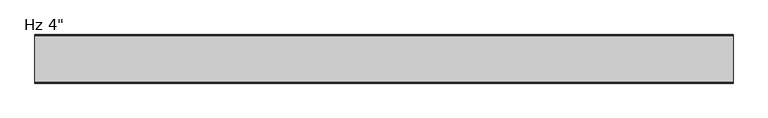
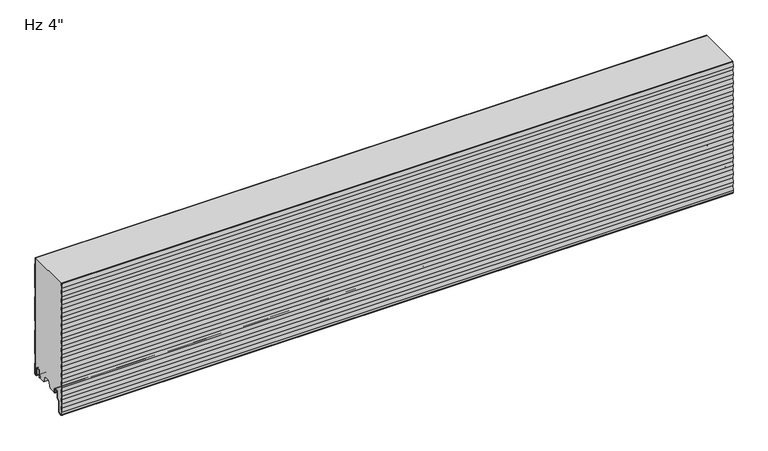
"""IFC4 building model written with IfcOpenShell, lengths in millimetres: plate geometry."""

from ifc_helpers import new_model, si_unit, point, frame, frame_2d, origin, place, context, project, spatial, polyline, circle_curve, trimmed, segment, composite_curve, outline, extrude, source, transform, mapped, element, save
from ifc_brep_helpers import plane_surface, cylinder_surface, revolved_surface, advanced_brep


def plate_c4843a94(model_context):
    return source(origin(), model_context, "Body", "SolidModel", [
        extrude(outline(composite_curve([segment(trimmed(circle_curve(frame_2d((-2.3985037, -0.4487243)), 2.3999705), [point((-3.12e-05, -0.3639402))], [point((-2.3985037, -2.8486949))], False, "CARTESIAN"), True, "CONTINUOUS"), segment(polyline([(-2.3985037, -2.8486949), (-3.9516205, -2.8486949)]), True, "CONTINUOUS"), segment(trimmed(circle_curve(frame_2d((-3.9516205, 0.3613604)), 3.2100553), [point((-3.9516205, -2.8486949))], [point((-7.1616758, 0.3613604))], False, "CARTESIAN"), True, "CONTINUOUS"), segment(polyline([(-7.1616758, 0.3613604), (-7.1616758, 13.8905885)]), True, "CONTINUOUS"), segment(trimmed(circle_curve(frame_2d((-9.8816619, 13.8905885)), 2.7199861), [point((-7.1616758, 13.8905885))], [point((-9.8816619, 16.6105746))], True, "CARTESIAN"), True, "CONTINUOUS"), segment(polyline([(-9.8816619, 16.6105746), (-13.5282598, 16.6105746)]), True, "CONTINUOUS"), segment(trimmed(circle_curve(frame_2d((-13.5282598, 13.8905782)), 2.7199964), [point((-13.5282598, 16.6105746))], [point((-16.2482561, 13.8905782))], True, "CARTESIAN"), True, "CONTINUOUS"), segment(polyline([(-16.2482561, 13.8905782), (-16.2482561, 1.189897)]), True, "CONTINUOUS"), segment(trimmed(circle_curve(frame_2d((-17.7722572, 1.189897)), 1.524001), [point((-16.2482561, 1.189897))], [point((-19.2731052, 1.454537))], False, "CARTESIAN"), True, "CONTINUOUS"), segment(polyline([(-19.2731052, 1.454537), (-18.1704393, 7.7080661), (-17.2482561, 7.5454603), (-17.2482561, 13.8905782)]), True, "CONTINUOUS"), segment(trimmed(circle_curve(frame_2d((-13.5282598, 13.8905782)), 3.7199964), [point((-17.2482561, 13.8905782))], [point((-13.5282598, 17.6105746))], False, "CARTESIAN"), True, "CONTINUOUS"), segment(polyline([(-13.5282598, 17.6105746), (-9.8816619, 17.6105746)]), True, "CONTINUOUS"), segment(trimmed(circle_curve(frame_2d((-9.8816619, 13.8905885)), 3.7199861), [point((-9.8816619, 17.6105746))], [point((-6.1616758, 13.8905885))], False, "CARTESIAN"), True, "CONTINUOUS"), segment(polyline([(-6.1616758, 13.8905885), (-6.1616758, 0.3613604)]), True, "CONTINUOUS"), segment(trimmed(circle_curve(frame_2d((-3.9516205, 0.3613604)), 2.2100553), [point((-6.1616758, 0.3613604))], [point((-3.9516205, -1.8486949))], True, "CARTESIAN"), True, "CONTINUOUS"), segment(polyline([(-3.9516205, -1.8486949), (-2.3985037, -1.8486949)]), True, "CONTINUOUS"), segment(trimmed(circle_curve(frame_2d((-2.3985037, -0.4487243)), 1.3999705), [point((-2.3985037, -1.8486949))], [point((-1.0000312, -0.3839769))], True, "CARTESIAN"), True, "CONTINUOUS"), segment(polyline([(-1.0000312, -0.3839769), (-1.0000312, 22.2866086), (-2.2002516, 23.486829), (-2.2002516, 43.1222888), (-1.0000209, 44.3225195), (-1.0000209, 98.4864459), (-2.2002516, 99.6866766), (-2.2002516, 119.3221364), (-1.0000209, 120.5223671), (-1.0000209, 174.6698551), (-2.2002516, 175.8700858), (-2.2002516, 195.5055456), (-1.0000209, 196.7057763), (-1.0000209, 250.8532643), (-2.2002516, 252.0534951), (-2.2002516, 266.4), (-1.2002516, 266.4), (-1.2002516, 252.4677086), (-2.09e-05, 251.2674779), (-2.09e-05, 196.2915628), (-1.2002516, 195.091332), (-1.2002516, 176.2842994), (-2.09e-05, 175.0840687), (-2.09e-05, 120.1081535), (-1.2002516, 118.9079228), (-1.2002516, 100.1008902), (-2.09e-05, 98.9006594), (-2.09e-05, 43.9083059), (-1.2002516, 42.7080752), (-1.2002516, 23.9010426), (-3.12e-05, 22.7008222), (-3.12e-05, -0.3639402)]), True, "CONTINUOUS")], self_intersect=False)), frame((-730.0, 0.0, 0.0), z_axis=(1.0, 0.0, 0.0), x_axis=(0.0, 1.0, 0.0)), (0.0, 0.0, 1.0), 1460.0),
        extrude(outline(composite_curve([segment(trimmed(circle_curve(frame_2d((-73.2783207, 0.8654988)), 1.2), [point((-72.0783217, 0.8670134))], [point((-74.4768053, 0.8052116))], False, "CARTESIAN"), True, "CONTINUOUS"), segment(polyline([(-74.4768053, 0.8052116), (-74.4768053, 7.3245305)]), True, "CONTINUOUS"), segment(trimmed(circle_curve(frame_2d((-76.8268053, 7.3245305)), 2.3499999), [point((-74.4768053, 7.3245305))], [point((-76.8268053, 9.6745305))], True, "CARTESIAN"), True, "CONTINUOUS"), segment(polyline([(-76.8268053, 9.6745305), (-81.2268051, 9.6745305)]), True, "CONTINUOUS"), segment(trimmed(circle_curve(frame_2d((-81.2268051, 7.3245305)), 2.3499999), [point((-81.2268051, 9.6745305))], [point((-83.576805, 7.3245305))], True, "CARTESIAN"), True, "CONTINUOUS"), segment(polyline([(-83.576805, 7.3245305), (-83.576805, -4.4863817)]), True, "CONTINUOUS"), segment(trimmed(circle_curve(frame_2d((-86.276805, -4.4863817)), 2.7), [point((-83.576805, -4.4863817))], [point((-84.3676167, -6.39557))], False, "CARTESIAN"), True, "CONTINUOUS"), segment(polyline([(-84.3676167, -6.39557), (-89.1081756, -11.1361289)]), True, "CONTINUOUS"), segment(trimmed(circle_curve(frame_2d((-87.9768048, -12.2674998)), 1.6), [point((-89.1081756, -11.1361289))], [point((-89.5768048, -12.2674998))], True, "CARTESIAN"), True, "CONTINUOUS"), segment(polyline([(-89.5768048, -12.2674998), (-89.5768048, -33.274257)]), True, "CONTINUOUS"), segment(trimmed(circle_curve(frame_2d((-93.2768048, -33.274257)), 3.7), [point((-89.5768048, -33.274257))], [point((-92.9540376, -36.960152))], False, "CARTESIAN"), True, "CONTINUOUS"), segment(polyline([(-92.9540376, -36.960152), (-97.7010262, -37.3758371)]), True, "CONTINUOUS"), segment(trimmed(circle_curve(frame_2d((-98.0116373, -33.8287598)), 3.5606512), [point((-97.7010262, -37.3758371))], [point((-101.5722885, -33.8287598))], False, "CARTESIAN"), True, "CONTINUOUS"), segment(polyline([(-101.5722885, -33.8287598), (-101.5722885, -29.1236881), (-100.5412058, -19.8481845), (-101.6000209, -10.3232036), (-100.5412058, -0.7982226), (-101.6000209, 8.7267583), (-100.5412058, 18.2517393), (-101.6000209, 27.7767202), (-100.5412058, 37.3017012), (-101.6000209, 46.8266821), (-100.5412058, 56.3516631), (-101.6000209, 65.876644), (-100.5412058, 75.401625), (-101.6000209, 84.9266059), (-100.5412058, 94.4515869), (-101.6000209, 103.9765678), (-100.5412058, 113.5015488), (-101.6000209, 123.0265297), (-100.5412058, 132.5515107), (-101.6000209, 142.0764916), (-100.5412058, 151.6014726), (-101.6000209, 161.1264535), (-100.5412058, 170.6514345), (-101.6000209, 180.1764154), (-100.5412058, 189.7013964), (-101.6000209, 199.2263773), (-100.5412058, 208.7513583), (-101.6000209, 218.2763392), (-100.5412058, 227.8013202), (-101.6000209, 237.3263011), (-100.5412058, 246.8512821), (-101.6000209, 256.376263), (-100.5412058, 265.901244), (-100.5966485, 266.4), (-99.5904889, 266.4), (-99.5350463, 265.901244), (-100.5938614, 256.376263), (-99.5350463, 246.8512821), (-100.5938614, 237.3263011), (-99.5350463, 227.8013202), (-100.5938614, 218.2763392), (-99.5350463, 208.7513583), (-100.5938614, 199.2263773), (-99.5350463, 189.7013964), (-100.5938614, 180.1764154), (-99.5350463, 170.6514345), (-100.5938614, 161.1264535), (-99.5350463, 151.6014726), (-100.5938614, 142.0764916), (-99.5350463, 132.5515107), (-100.5938614, 123.0265297), (-99.5350463, 113.5015488), (-100.5938614, 103.9765678), (-99.5350463, 94.4515869), (-100.5938614, 84.9266059), (-99.5350463, 75.401625), (-100.5938614, 65.876644), (-99.5350463, 56.3516631), (-100.5938614, 46.8266821), (-99.5350463, 37.3017012), (-100.5938614, 27.7767202), (-99.5350463, 18.2517393), (-100.5938614, 8.7267583), (-99.5350463, -0.7982226), (-100.5938614, -10.3232036), (-99.5350463, -19.8481845), (-100.5722885, -29.1790984), (-100.5722885, -33.8287598)]), True, "CONTINUOUS"), segment(trimmed(circle_curve(frame_2d((-98.0116373, -33.8287598)), 2.5606512), [point((-100.5722885, -33.8287598))], [point((-97.7882606, -36.3796493))], True, "CARTESIAN"), True, "CONTINUOUS"), segment(polyline([(-97.7882606, -36.3796493), (-93.041272, -35.9639641)]), True, "CONTINUOUS"), segment(trimmed(circle_curve(frame_2d((-93.2768048, -33.274257)), 2.7), [point((-93.041272, -35.9639641))], [point((-90.5768048, -33.274257))], True, "CARTESIAN"), True, "CONTINUOUS"), segment(polyline([(-90.5768048, -33.274257), (-90.5768048, -12.2674998)]), True, "CONTINUOUS"), segment(trimmed(circle_curve(frame_2d((-87.9768048, -12.2674998)), 2.6), [point((-90.5768048, -12.2674998))], [point((-89.8152824, -10.4290221))], False, "CARTESIAN"), True, "CONTINUOUS"), segment(polyline([(-89.8152824, -10.4290221), (-85.0747235, -5.6884632)]), True, "CONTINUOUS"), segment(trimmed(circle_curve(frame_2d((-86.276805, -4.4863817)), 1.7), [point((-85.0747235, -5.6884632))], [point((-84.576805, -4.4863817))], True, "CARTESIAN"), True, "CONTINUOUS"), segment(polyline([(-84.576805, -4.4863817), (-84.576805, 7.3245305)]), True, "CONTINUOUS"), segment(trimmed(circle_curve(frame_2d((-81.2268051, 7.3245305)), 3.3499999), [point((-84.576805, 7.3245305))], [point((-81.2268051, 10.6745305))], False, "CARTESIAN"), True, "CONTINUOUS"), segment(polyline([(-81.2268051, 10.6745305), (-76.8268053, 10.6745305)]), True, "CONTINUOUS"), segment(trimmed(circle_curve(frame_2d((-76.8268053, 7.3245305)), 3.3499999), [point((-76.8268053, 10.6745305))], [point((-73.4768053, 7.3245305))], False, "CARTESIAN"), True, "CONTINUOUS"), segment(polyline([(-73.4768053, 7.3245305), (-73.4768053, 4.6254142), (-72.0783217, 4.6254142), (-72.0783217, 0.8670134)]), True, "CONTINUOUS")], self_intersect=False)), frame((-730.0, 0.0, 0.0), z_axis=(1.0, 0.0, 0.0), x_axis=(0.0, 1.0, 0.0)), (0.0, 0.0, 1.0), 1460.0),
        advanced_brep(
        [(-730.0, -73.4829649, 7.3245305), (-730.0, -76.8329648, 10.6745305), (-730.0, -81.2329646, 10.6745305), (-730.0, -84.5829645, 7.3245305), (-730.0, -84.5829645, -4.4863817), (-730.0, -85.080883, -5.6884632), (-730.0, -89.8214419, -10.4290221), (-730.0, -90.5829643, -12.2674998), (-730.0, -90.5829643, -33.274257), (-730.0, -93.0474315, -35.9639641), (-730.0, -97.7944201, -36.3796493), (-730.0, -100.578448, -33.8287598), (-730.0, -100.578448, -29.1787401), (-730.0, -99.5412058, -19.8478263), (-730.0, -100.6000209, -10.3228453), (-730.0, -99.5412058, -0.7978644), (-730.0, -100.6000209, 8.7271166), (-730.0, -99.5412058, 18.2520975), (-730.0, -100.6000209, 27.7770785), (-730.0, -99.5412058, 37.3020594), (-730.0, -100.6000209, 46.8270404), (-730.0, -99.5412058, 56.3520213), (-730.0, -100.6000209, 65.8770023), (-730.0, -99.5412058, 75.4019832), (-730.0, -100.6000209, 84.9269642), (-730.0, -99.5412058, 94.4519451), (-730.0, -100.6000209, 103.9769261), (-730.0, -99.5412058, 113.501907), (-730.0, -100.6000209, 123.026888), (-730.0, -99.5412058, 132.5518689), (-730.0, -100.6000209, 142.0768499), (-730.0, -99.5412058, 151.6018308), (-730.0, -100.6000209, 161.1268118), (-730.0, -99.5412058, 170.6517927), (-730.0, -100.6000209, 180.1767737), (-730.0, -99.5412058, 189.7017546), (-730.0, -100.6000209, 199.2267356), (-730.0, -99.5412058, 208.7517165), (-730.0, -100.6000209, 218.2766975), (-730.0, -99.5412058, 227.8016784), (-730.0, -100.6000209, 237.3266594), (-730.0, -99.5412058, 246.8516403), (-730.0, -100.6000209, 256.3766213), (-730.0, -99.5412058, 265.9016022), (-730.0, -99.5966086, 266.4), (-730.0, -2.2002516, 266.4), (-730.0, -2.2002516, 252.0534951), (-730.0, -1.0000209, 250.8532643), (-730.0, -1.0000209, 196.7057763), (-730.0, -2.2002516, 195.5055456), (-730.0, -2.2002516, 175.8700858), (-730.0, -1.0000209, 174.6698551), (-730.0, -1.0000209, 120.5223671), (-730.0, -2.2002516, 119.3221364), (-730.0, -2.2002516, 99.6866766), (-730.0, -1.0000209, 98.4864459), (-730.0, -1.0000209, 44.3225195), (-730.0, -2.2002516, 43.1222888), (-730.0, -2.2002516, 23.486829), (-730.0, -1.0000312, 22.2866086), (-730.0, -1.0000312, -0.3839769), (-730.0, -2.3985037, -1.8486949), (-730.0, -3.9516205, -1.8486949), (-730.0, -6.1616758, 0.3613604), (-730.0, -6.1616758, 13.8905885), (-730.0, -9.8816619, 17.6105746), (-730.0, -13.5282598, 17.6105746), (-730.0, -17.2482561, 13.8905782), (-730.0, -17.2482561, 7.5454603), (-730.0, -18.1704393, 7.7080661), (-730.0, -19.2731052, 1.454537), (-730.0, -18.724478, 0.0), (-730.0, -33.5050787, 0.0), (-730.0, -39.1301227, 14.9979533), (-730.0, -51.7686274, 14.9979533), (-730.0, -57.3712822, 0.0), (-730.0, -72.4532693, 0.0), (-730.0, -72.0844813, 0.8670134), (-730.0, -72.0844813, 4.6254142), (-730.0, -73.4829649, 4.6254142), (730.0, -73.4829649, 7.3245305), (730.0, -73.4829649, 4.6254142), (730.0, -72.0844813, 4.6254142), (730.0, -72.0844813, 0.8670134), (730.0, -72.4532693, 0.0), (730.0, -57.3712822, 0.0), (730.0, -51.7470546, 14.9979533), (730.0, -39.1301227, 14.9979533), (730.0, -33.5050787, 0.0), (730.0, -18.724478, 0.0), (730.0, -19.2731052, 1.454537), (730.0, -18.1704393, 7.7080661), (730.0, -17.2482561, 7.5454603), (730.0, -17.2482561, 13.8905782), (730.0, -13.5282598, 17.6105746), (730.0, -9.8816619, 17.6105746), (730.0, -6.1616758, 13.8905885), (730.0, -6.1616758, 0.3613604), (730.0, -3.9516205, -1.8486949), (730.0, -2.3985037, -1.8486949), (730.0, -1.0000312, -0.3839769), (730.0, -1.0000312, 22.2866086), (730.0, -2.2002516, 23.486829), (730.0, -2.2002516, 43.1222888), (730.0, -1.0000209, 44.3225195), (730.0, -1.0000209, 98.4864459), (730.0, -2.2002516, 99.6866766), (730.0, -2.2002516, 119.3221364), (730.0, -1.0000209, 120.5223671), (730.0, -1.0000209, 174.6698551), (730.0, -2.2002516, 175.8700858), (730.0, -2.2002516, 195.5055456), (730.0, -1.0000209, 196.7057763), (730.0, -1.0000209, 250.8532643), (730.0, -2.2002516, 252.0534951), (730.0, -2.2002516, 266.4), (730.0, -99.5966086, 266.4), (730.0, -99.5412058, 265.9016022), (730.0, -100.6000209, 256.3766213), (730.0, -99.5412058, 246.8516403), (730.0, -100.6000209, 237.3266594), (730.0, -99.5412058, 227.8016784), (730.0, -100.6000209, 218.2766975), (730.0, -99.5412058, 208.7517165), (730.0, -100.6000209, 199.2267356), (730.0, -99.5412058, 189.7017546), (730.0, -100.6000209, 180.1767737), (730.0, -99.5412058, 170.6517927), (730.0, -100.6000209, 161.1268118), (730.0, -99.5412058, 151.6018308), (730.0, -100.6000209, 142.0768499), (730.0, -99.5412058, 132.5518689), (730.0, -100.6000209, 123.026888), (730.0, -99.5412058, 113.501907), (730.0, -100.6000209, 103.9769261), (730.0, -99.5412058, 94.4519451), (730.0, -100.6000209, 84.9269642), (730.0, -99.5412058, 75.4019832), (730.0, -100.6000209, 65.8770023), (730.0, -99.5412058, 56.3520213), (730.0, -100.6000209, 46.8270404), (730.0, -99.5412058, 37.3020594), (730.0, -100.6000209, 27.7770785), (730.0, -99.5412058, 18.2520975), (730.0, -100.6000209, 8.7271166), (730.0, -99.5412058, -0.7978644), (730.0, -100.6000209, -10.3228453), (730.0, -99.5412058, -19.8478263), (730.0, -100.578448, -29.1787401), (730.0, -100.578448, -33.8287598), (730.0, -97.7944201, -36.3796493), (730.0, -93.0474315, -35.9639641), (730.0, -90.5829643, -33.274257), (730.0, -90.5829643, -12.2674998), (730.0, -89.8214419, -10.4290221), (730.0, -85.080883, -5.6884632), (730.0, -84.5829645, -4.4863817), (730.0, -84.5829645, 7.3245305), (730.0, -81.2329646, 10.6745305), (730.0, -76.8329648, 10.6745305)],
        [
            (0, 1, circle_curve(frame((-730.0, -76.8329648, 7.3245305), z_axis=(1.0, 0.0, 0.0), x_axis=(0.0, 0.0, -1.0)), 3.3499999)),
            (1, 2),
            (2, 3, circle_curve(frame((-730.0, -81.2329646, 7.3245305), z_axis=(1.0, 0.0, 0.0), x_axis=(0.0, 0.0, -1.0)), 3.3499999)),
            (3, 4),
            (4, 5, circle_curve(frame((-730.0, -86.2829645, -4.4863817), z_axis=(-1.0, 0.0, 0.0), x_axis=(0.0, 0.0, -1.0)), 1.7)),
            (5, 6),
            (6, 7, circle_curve(frame((-730.0, -87.9829643, -12.2674998), z_axis=(1.0, 0.0, 0.0), x_axis=(0.0, 0.0, -1.0)), 2.6)),
            (7, 8),
            (8, 9, circle_curve(frame((-730.0, -93.2829643, -33.274257), z_axis=(-1.0, 0.0, 0.0), x_axis=(0.0, 0.0, -1.0)), 2.7)),
            (9, 10),
            (10, 11, circle_curve(frame((-730.0, -98.0177968, -33.8287598), z_axis=(-1.0, 0.0, 0.0), x_axis=(0.0, 0.0, -1.0)), 2.5606512)),
            (11, 12),
            (12, 13),
            (13, 14),
            (14, 15),
            (15, 16),
            (16, 17),
            (17, 18),
            (18, 19),
            (19, 20),
            (20, 21),
            (21, 22),
            (22, 23),
            (23, 24),
            (24, 25),
            (25, 26),
            (26, 27),
            (27, 28),
            (28, 29),
            (29, 30),
            (30, 31),
            (31, 32),
            (32, 33),
            (33, 34),
            (34, 35),
            (35, 36),
            (36, 37),
            (37, 38),
            (38, 39),
            (39, 40),
            (40, 41),
            (41, 42),
            (42, 43),
            (43, 44),
            (44, 45),
            (45, 46),
            (46, 47),
            (47, 48),
            (48, 49),
            (49, 50),
            (50, 51),
            (51, 52),
            (52, 53),
            (53, 54),
            (54, 55),
            (55, 56),
            (56, 57),
            (57, 58),
            (58, 59),
            (59, 60),
            (60, 61, circle_curve(frame((-730.0, -2.3985037, -0.4487243), z_axis=(-1.0, 0.0, 0.0), x_axis=(0.0, 0.0, -1.0)), 1.3999705)),
            (61, 62),
            (62, 63, circle_curve(frame((-730.0, -3.9516205, 0.3613604), z_axis=(-1.0, 0.0, 0.0), x_axis=(0.0, 0.0, -1.0)), 2.2100553)),
            (63, 64),
            (64, 65, circle_curve(frame((-730.0, -9.8816619, 13.8905885), z_axis=(1.0, 0.0, 0.0), x_axis=(0.0, 0.0, -1.0)), 3.7199861)),
            (65, 66),
            (66, 67, circle_curve(frame((-730.0, -13.5282598, 13.8905782), z_axis=(1.0, 0.0, 0.0), x_axis=(0.0, 0.0, -1.0)), 3.7199964)),
            (67, 68),
            (68, 69),
            (69, 70),
            (70, 71, circle_curve(frame((-730.0, -17.7722572, 1.189897), z_axis=(1.0, 0.0, 0.0), x_axis=(0.0, 0.0, -1.0)), 1.524001)),
            (71, 72),
            (72, 73),
            (73, 74),
            (74, 75),
            (75, 76),
            (76, 77, circle_curve(frame((-730.0, -73.2844803, 0.8654988), z_axis=(1.0, 0.0, 0.0), x_axis=(0.0, 0.0, -1.0)), 1.2)),
            (77, 78),
            (78, 79),
            (79, 0),
            (80, 81),
            (81, 82),
            (82, 83),
            (83, 84, circle_curve(frame((730.0, -73.2844803, 0.8654988), z_axis=(-1.0, 0.0, 0.0), x_axis=(0.0, 0.0, -1.0)), 1.2)),
            (84, 85),
            (85, 86),
            (86, 87),
            (87, 88),
            (88, 89),
            (89, 90, circle_curve(frame((730.0, -17.7722572, 1.189897), z_axis=(-1.0, 0.0, 0.0), x_axis=(0.0, 0.0, -1.0)), 1.524001)),
            (90, 91),
            (91, 92),
            (92, 93),
            (93, 94, circle_curve(frame((730.0, -13.5282598, 13.8905782), z_axis=(-1.0, 0.0, 0.0), x_axis=(0.0, 0.0, -1.0)), 3.7199964)),
            (94, 95),
            (95, 96, circle_curve(frame((730.0, -9.8816619, 13.8905885), z_axis=(-1.0, 0.0, 0.0), x_axis=(0.0, 0.0, -1.0)), 3.7199861)),
            (96, 97),
            (97, 98, circle_curve(frame((730.0, -3.9516205, 0.3613604), z_axis=(1.0, 0.0, 0.0), x_axis=(0.0, 0.0, -1.0)), 2.2100553)),
            (98, 99),
            (99, 100, circle_curve(frame((730.0, -2.3985037, -0.4487243), z_axis=(1.0, 0.0, 0.0), x_axis=(0.0, 0.0, -1.0)), 1.3999705)),
            (100, 101),
            (101, 102),
            (102, 103),
            (103, 104),
            (104, 105),
            (105, 106),
            (106, 107),
            (107, 108),
            (108, 109),
            (109, 110),
            (110, 111),
            (111, 112),
            (112, 113),
            (113, 114),
            (114, 115),
            (115, 116),
            (116, 117),
            (117, 118),
            (118, 119),
            (119, 120),
            (120, 121),
            (121, 122),
            (122, 123),
            (123, 124),
            (124, 125),
            (125, 126),
            (126, 127),
            (127, 128),
            (128, 129),
            (129, 130),
            (130, 131),
            (131, 132),
            (132, 133),
            (133, 134),
            (134, 135),
            (135, 136),
            (136, 137),
            (137, 138),
            (138, 139),
            (139, 140),
            (140, 141),
            (141, 142),
            (142, 143),
            (143, 144),
            (144, 145),
            (145, 146),
            (146, 147),
            (147, 148),
            (148, 149),
            (149, 150, circle_curve(frame((730.0, -98.0177968, -33.8287598), z_axis=(1.0, 0.0, 0.0), x_axis=(0.0, 0.0, -1.0)), 2.5606512)),
            (150, 151),
            (151, 152, circle_curve(frame((730.0, -93.2829643, -33.274257), z_axis=(1.0, 0.0, 0.0), x_axis=(0.0, 0.0, -1.0)), 2.7)),
            (152, 153),
            (153, 154, circle_curve(frame((730.0, -87.9829643, -12.2674998), z_axis=(-1.0, 0.0, 0.0), x_axis=(0.0, 0.0, -1.0)), 2.6)),
            (154, 155),
            (155, 156, circle_curve(frame((730.0, -86.2829645, -4.4863817), z_axis=(1.0, 0.0, 0.0), x_axis=(0.0, 0.0, -1.0)), 1.7)),
            (156, 157),
            (157, 158, circle_curve(frame((730.0, -81.2329646, 7.3245305), z_axis=(-1.0, 0.0, 0.0), x_axis=(0.0, 0.0, -1.0)), 3.3499999)),
            (158, 159),
            (159, 80, circle_curve(frame((730.0, -76.8329648, 7.3245305), z_axis=(-1.0, 0.0, 0.0), x_axis=(0.0, 0.0, -1.0)), 3.3499999)),
            (64, 96),
            (95, 65),
            (63, 97),
            (62, 98),
            (61, 99),
            (60, 100),
            (59, 101),
            (58, 102),
            (57, 103),
            (56, 104),
            (55, 105),
            (54, 106),
            (53, 107),
            (52, 108),
            (51, 109),
            (50, 110),
            (49, 111),
            (48, 112),
            (47, 113),
            (46, 114),
            (45, 115),
            (72, 88),
            (87, 73),
            (71, 89),
            (70, 90),
            (69, 91),
            (68, 92),
            (67, 93),
            (66, 94),
            (86, 74),
            (10, 150),
            (149, 11),
            (9, 151),
            (8, 152),
            (6, 154),
            (153, 7),
            (5, 155),
            (4, 156),
            (3, 157),
            (2, 158),
            (1, 159),
            (75, 85),
            (84, 76),
            (116, 44),
            (43, 117),
            (42, 118),
            (41, 119),
            (40, 120),
            (39, 121),
            (38, 122),
            (37, 123),
            (36, 124),
            (35, 125),
            (34, 126),
            (33, 127),
            (32, 128),
            (31, 129),
            (30, 130),
            (29, 131),
            (28, 132),
            (27, 133),
            (26, 134),
            (25, 135),
            (24, 136),
            (23, 137),
            (22, 138),
            (21, 139),
            (20, 140),
            (19, 141),
            (18, 142),
            (17, 143),
            (16, 144),
            (15, 145),
            (14, 146),
            (13, 147),
            (12, 148),
            (83, 77),
            (82, 78),
            (81, 79),
            (0, 80),
        ],
        [
            plane_surface(frame((-730.0, -100.6000209, 532.8637656), z_axis=(-1.0, 0.0, 0.0), x_axis=(0.0, -1.0, 0.0))),
            plane_surface(frame((730.0, -100.6000209, 532.8637656), z_axis=(1.0, 0.0, 0.0), x_axis=(0.0, -1.0, 0.0))),
            revolved_surface(polyline([(730.0, -9.8816619, 10.1706024), (-730.0, -9.8816619, 10.1706024)]), (-730.0, -9.8816619, 13.8905885), (1.0, 0.0, 0.0)),
            plane_surface(frame((-730.0, -6.1616758, 13.8905885), z_axis=(0.0, -1.0, 0.0), x_axis=(1.0, 0.0, 0.0))),
            cylinder_surface(frame((-730.0, -3.9516205, 0.3613604), z_axis=(-1.0, 0.0, 0.0), x_axis=(0.0, 0.0, -1.0)), 2.2100553),
            plane_surface(frame((-730.0, -3.9516205, -1.8486949), z_axis=(0.0, 0.0, -1.0), x_axis=(1.0, 0.0, 0.0))),
            cylinder_surface(frame((-730.0, -2.3985037, -0.4487243), z_axis=(-1.0, 0.0, 0.0), x_axis=(0.0, 0.0, -1.0)), 1.3999705),
            plane_surface(frame((-730.0, -1.0000312, -0.3839769), z_axis=(0.0, 1.0, 0.0), x_axis=(1.0, 0.0, 0.0))),
            plane_surface(frame((-730.0, -1.0000312, 22.2866086), z_axis=(0.0, 0.7071067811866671, 0.7071067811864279), x_axis=(1.0, 0.0, 0.0))),
            plane_surface(frame((-730.0, -2.2002516, 33.3045589), z_axis=(0.0, 1.0, 0.0), x_axis=(1.0, 0.0, 0.0))),
            plane_surface(frame((-730.0, -2.2002516, 43.1222888), z_axis=(0.0, 0.7071067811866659, -0.7071067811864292), x_axis=(1.0, 0.0, 0.0))),
            plane_surface(frame((-730.0, -1.0000209, 44.3225195), z_axis=(0.0, 1.0, 0.0), x_axis=(1.0, 0.0, 0.0))),
            plane_surface(frame((-730.0, -1.0000209, 98.4864459), z_axis=(0.0, 0.7071067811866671, 0.7071067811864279), x_axis=(1.0, 0.0, 0.0))),
            plane_surface(frame((-730.0, -2.2002516, 109.5044065), z_axis=(0.0, 1.0, 0.0), x_axis=(1.0, 0.0, 0.0))),
            plane_surface(frame((-730.0, -2.2002516, 119.3221364), z_axis=(0.0, 0.7071067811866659, -0.7071067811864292), x_axis=(1.0, 0.0, 0.0))),
            plane_surface(frame((-730.0, -1.0000209, 120.5223671), z_axis=(0.0, 1.0, 0.0), x_axis=(1.0, 0.0, 0.0))),
            plane_surface(frame((-730.0, -1.0000209, 174.6698551), z_axis=(0.0, 0.7071067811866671, 0.7071067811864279), x_axis=(1.0, 0.0, 0.0))),
            plane_surface(frame((-730.0, -2.2002516, 185.6878157), z_axis=(0.0, 1.0, 0.0), x_axis=(1.0, 0.0, 0.0))),
            plane_surface(frame((-730.0, -2.2002516, 195.5055456), z_axis=(0.0, 0.7071067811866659, -0.7071067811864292), x_axis=(1.0, 0.0, 0.0))),
            plane_surface(frame((-730.0, -1.0000209, 196.7057763), z_axis=(0.0, 1.0, 0.0), x_axis=(1.0, 0.0, 0.0))),
            plane_surface(frame((-730.0, -1.0000209, 250.8532643), z_axis=(0.0, 0.7071067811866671, 0.7071067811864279), x_axis=(1.0, 0.0, 0.0))),
            plane_surface(frame((-730.0, -2.2002516, 261.8712249), z_axis=(0.0, 1.0, 0.0), x_axis=(1.0, 0.0, 0.0))),
            plane_surface(frame((-730.0, -39.1301227, 14.9979533), z_axis=(0.0, -0.9363125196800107, -0.35116785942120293), x_axis=(1.0, 0.0, 0.0))),
            plane_surface(frame((-730.0, -33.5050787, 0.0), z_axis=(0.0, 0.0, -1.0), x_axis=(1.0, 0.0, 0.0))),
            revolved_surface(polyline([(730.0, -17.7722572, -0.33410399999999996), (-730.0, -17.7722572, -0.33410399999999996)]), (-730.0, -17.7722572, 1.189897), (1.0, 0.0, 0.0)),
            plane_surface(frame((-730.0, -19.2731052, 1.454537), z_axis=(0.0, 0.9848077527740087, -0.1736481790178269), x_axis=(1.0, 0.0, 0.0))),
            plane_surface(frame((-730.0, -18.1704393, 7.7080661), z_axis=(0.0, -0.17364817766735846, -0.9848077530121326), x_axis=(1.0, 0.0, 0.0))),
            plane_surface(frame((-730.0, -17.2482561, 7.5454603), z_axis=(0.0, 1.0, 0.0), x_axis=(1.0, 0.0, 0.0))),
            revolved_surface(polyline([(730.0, -13.5282598, 10.1705818), (-730.0, -13.5282598, 10.1705818)]), (-730.0, -13.5282598, 13.8905782), (1.0, 0.0, 0.0)),
            plane_surface(frame((-730.0, -13.5282598, 17.6105746), z_axis=(0.0, 0.0, -1.0), x_axis=(1.0, 0.0, 0.0))),
            plane_surface(frame((730.0, -39.1301227, 14.9979533), z_axis=(0.0, 0.0, -1.0), x_axis=(-1.0, 0.0, 0.0))),
            cylinder_surface(frame((-730.0, -98.0177968, -33.8287598), z_axis=(-1.0, 0.0, 0.0), x_axis=(0.0, 0.0, -1.0)), 2.5606512),
            plane_surface(frame((-730.0, -97.7944201, -36.3796493), z_axis=(0.0, 0.08723436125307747, -0.9961878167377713), x_axis=(1.0, 0.0, 0.0))),
            cylinder_surface(frame((-730.0, -93.2829643, -33.274257), z_axis=(-1.0, 0.0, 0.0), x_axis=(0.0, 0.0, -1.0)), 2.7),
            revolved_surface(polyline([(730.0, -87.9829643, -14.8674998), (-730.0, -87.9829643, -14.8674998)]), (-730.0, -87.9829643, -12.2674998), (1.0, 0.0, 0.0)),
            plane_surface(frame((-730.0, -89.8214419, -10.4290221), z_axis=(0.0, 0.7071067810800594, -0.7071067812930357), x_axis=(1.0, 0.0, 0.0))),
            cylinder_surface(frame((-730.0, -86.2829645, -4.4863817), z_axis=(-1.0, 0.0, 0.0), x_axis=(0.0, 0.0, -1.0)), 1.7),
            plane_surface(frame((-730.0, -84.5829645, -4.4863817), z_axis=(0.0, 1.0, 0.0), x_axis=(1.0, 0.0, 0.0))),
            revolved_surface(polyline([(730.0, -81.2329646, 3.9745306), (-730.0, -81.2329646, 3.9745306)]), (-730.0, -81.2329646, 7.3245305), (1.0, 0.0, 0.0)),
            plane_surface(frame((-730.0, -81.2329646, 10.6745305), z_axis=(0.0, 0.0, -1.0), x_axis=(1.0, 0.0, 0.0))),
            plane_surface(frame((-730.0, -72.4532693, 0.0), z_axis=(0.0, 0.0, -1.0), x_axis=(1.0, 0.0, 0.0))),
            plane_surface(frame((-730.0, -57.3712822, 0.0), z_axis=(0.0, 0.9363292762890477, -0.3511231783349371), x_axis=(1.0, 0.0, 0.0))),
            plane_surface(frame((-730.0, -100.6000209, 275.4265832), z_axis=(0.0, -0.9938781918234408, -0.11048140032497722), x_axis=(1.0, 0.0, 0.0))),
            plane_surface(frame((-730.0, -99.5412058, 265.9016022), z_axis=(0.0, -0.993878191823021, 0.11048140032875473), x_axis=(1.0, 0.0, 0.0))),
            plane_surface(frame((-730.0, -100.6000209, 256.3766213), z_axis=(0.0, -0.993878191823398, -0.11048140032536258), x_axis=(1.0, 0.0, 0.0))),
            plane_surface(frame((-730.0, -99.5412058, 246.8516403), z_axis=(0.0, -0.993878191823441, 0.1104814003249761), x_axis=(1.0, 0.0, 0.0))),
            plane_surface(frame((-730.0, -100.6000209, 237.3266594), z_axis=(0.0, -0.9938781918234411, -0.11048140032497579), x_axis=(1.0, 0.0, 0.0))),
            plane_surface(frame((-730.0, -99.5412058, 227.8016784), z_axis=(0.0, -0.993878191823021, 0.11048140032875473), x_axis=(1.0, 0.0, 0.0))),
            plane_surface(frame((-730.0, -100.6000209, 218.2766975), z_axis=(0.0, -0.993878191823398, -0.11048140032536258), x_axis=(1.0, 0.0, 0.0))),
            plane_surface(frame((-730.0, -99.5412058, 208.7517165), z_axis=(0.0, -0.993878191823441, 0.1104814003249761), x_axis=(1.0, 0.0, 0.0))),
            plane_surface(frame((-730.0, -100.6000209, 199.2267356), z_axis=(0.0, -0.9938781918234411, -0.11048140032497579), x_axis=(1.0, 0.0, 0.0))),
            plane_surface(frame((-730.0, -99.5412058, 189.7017546), z_axis=(0.0, -0.993878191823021, 0.11048140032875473), x_axis=(1.0, 0.0, 0.0))),
            plane_surface(frame((-730.0, -100.6000209, 180.1767737), z_axis=(0.0, -0.993878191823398, -0.11048140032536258), x_axis=(1.0, 0.0, 0.0))),
            plane_surface(frame((-730.0, -99.5412058, 170.6517927), z_axis=(0.0, -0.993878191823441, 0.1104814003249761), x_axis=(1.0, 0.0, 0.0))),
            plane_surface(frame((-730.0, -100.6000209, 161.1268118), z_axis=(0.0, -0.9938781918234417, -0.11048140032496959), x_axis=(1.0, 0.0, 0.0))),
            plane_surface(frame((-730.0, -99.5412058, 151.6018308), z_axis=(0.0, -0.993878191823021, 0.1104814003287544), x_axis=(1.0, 0.0, 0.0))),
            plane_surface(frame((-730.0, -100.6000209, 142.0768499), z_axis=(0.0, -0.9938781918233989, -0.11048140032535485), x_axis=(1.0, 0.0, 0.0))),
            plane_surface(frame((-730.0, -99.5412058, 132.5518689), z_axis=(0.0, -0.993878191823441, 0.1104814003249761), x_axis=(1.0, 0.0, 0.0))),
            plane_surface(frame((-730.0, -100.6000209, 123.026888), z_axis=(0.0, -0.9938781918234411, -0.11048140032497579), x_axis=(1.0, 0.0, 0.0))),
            plane_surface(frame((-730.0, -99.5412058, 113.501907), z_axis=(0.0, -0.993878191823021, 0.11048140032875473), x_axis=(1.0, 0.0, 0.0))),
            plane_surface(frame((-730.0, -100.6000209, 103.9769261), z_axis=(0.0, -0.993878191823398, -0.11048140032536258), x_axis=(1.0, 0.0, 0.0))),
            plane_surface(frame((-730.0, -99.5412058, 94.4519451), z_axis=(0.0, -0.993878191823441, 0.1104814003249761), x_axis=(1.0, 0.0, 0.0))),
            plane_surface(frame((-730.0, -100.6000209, 84.9269642), z_axis=(0.0, -0.9938781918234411, -0.11048140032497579), x_axis=(1.0, 0.0, 0.0))),
            plane_surface(frame((-730.0, -99.5412058, 75.4019832), z_axis=(0.0, -0.993878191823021, 0.11048140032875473), x_axis=(1.0, 0.0, 0.0))),
            plane_surface(frame((-730.0, -100.6000209, 65.8770023), z_axis=(0.0, -0.993878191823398, -0.11048140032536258), x_axis=(1.0, 0.0, 0.0))),
            plane_surface(frame((-730.0, -99.5412058, 56.3520213), z_axis=(0.0, -0.993878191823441, 0.1104814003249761), x_axis=(1.0, 0.0, 0.0))),
            plane_surface(frame((-730.0, -100.6000209, 46.8270404), z_axis=(0.0, -0.9938781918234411, -0.11048140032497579), x_axis=(1.0, 0.0, 0.0))),
            plane_surface(frame((-730.0, -99.5412058, 37.3020594), z_axis=(0.0, -0.993878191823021, 0.11048140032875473), x_axis=(1.0, 0.0, 0.0))),
            plane_surface(frame((-730.0, -100.6000209, 27.7770785), z_axis=(0.0, -0.993878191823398, -0.11048140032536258), x_axis=(1.0, 0.0, 0.0))),
            plane_surface(frame((-730.0, -99.5412058, 18.2520975), z_axis=(0.0, -0.993878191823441, 0.1104814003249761), x_axis=(1.0, 0.0, 0.0))),
            plane_surface(frame((-730.0, -100.6000209, 8.7271166), z_axis=(0.0, -0.9938781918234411, -0.11048140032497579), x_axis=(1.0, 0.0, 0.0))),
            plane_surface(frame((-730.0, -99.5412058, -0.7978644), z_axis=(0.0, -0.993878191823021, 0.11048140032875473), x_axis=(1.0, 0.0, 0.0))),
            plane_surface(frame((-730.0, -100.6000209, -10.3228453), z_axis=(0.0, -0.9938781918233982, -0.11048140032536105), x_axis=(1.0, 0.0, 0.0))),
            plane_surface(frame((-730.0, -99.5412058, -19.8478263), z_axis=(0.0, -0.9938781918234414, 0.11048140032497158), x_axis=(1.0, 0.0, 0.0))),
            plane_surface(frame((-730.0, -100.578448, -29.1787401), z_axis=(0.0, -1.0, 0.0), x_axis=(1.0, 0.0, 0.0))),
            revolved_surface(polyline([(730.0, -73.2844803, -0.33450119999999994), (-730.0, -73.2844803, -0.33450119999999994)]), (-730.0, -73.2844803, 0.8654988), (1.0, 0.0, 0.0)),
            plane_surface(frame((-730.0, -72.0844813, 4.6254142), z_axis=(0.0, -1.0, 0.0), x_axis=(1.0, 0.0, 0.0))),
            plane_surface(frame((-730.0, -73.4829649, 4.6254142), z_axis=(0.0, 0.0, -1.0), x_axis=(1.0, 0.0, 0.0))),
            revolved_surface(polyline([(730.0, -76.8329648, 3.9745306), (-730.0, -76.8329648, 3.9745306)]), (-730.0, -76.8329648, 7.3245305), (1.0, 0.0, 0.0)),
            plane_surface(frame((-730.0, -73.4829649, 7.3245305), z_axis=(0.0, -1.0, 0.0), x_axis=(1.0, 0.0, 0.0))),
            plane_surface(frame((-730.0, -90.5829643, -33.274257), z_axis=(0.0, 1.0, 0.0), x_axis=(1.0, 0.0, 0.0))),
            plane_surface(frame((730.0, 11.9999791, 266.4), z_axis=(0.0, 0.0, 1.0), x_axis=(-1.0, 0.0, 0.0))),
        ],
        [
            (0, [[1, 2, 3, 4, 5, 6, 7, 8, 9, 10, 11, 12, 13, 14, 15, 16, 17, 18, 19, 20, 21, 22, 23, 24, 25, 26, 27, 28, 29, 30, 31, 32, 33, 34, 35, 36, 37, 38, 39, 40, 41, 42, 43, 44, 45, 46, 47, 48, 49, 50, 51, 52, 53, 54, 55, 56, 57, 58, 59, 60, 61, 62, 63, 64, 65, 66, 67, 68, 69, 70, 71, 72, 73, 74, 75, 76, 77, 78, 79, 80]]),
            (1, [[81, 82, 83, 84, 85, 86, 87, 88, 89, 90, 91, 92, 93, 94, 95, 96, 97, 98, 99, 100, 101, 102, 103, 104, 105, 106, 107, 108, 109, 110, 111, 112, 113, 114, 115, 116, 117, 118, 119, 120, 121, 122, 123, 124, 125, 126, 127, 128, 129, 130, 131, 132, 133, 134, 135, 136, 137, 138, 139, 140, 141, 142, 143, 144, 145, 146, 147, 148, 149, 150, 151, 152, 153, 154, 155, 156, 157, 158, 159, 160]]),
            (2, [[161, -96, 162, -65]]),
            (3, [[163, -97, -161, -64]]),
            (4, [[164, -98, -163, -63]]),
            (5, [[165, -99, -164, -62]]),
            (6, [[166, -100, -165, -61]]),
            (7, [[167, -101, -166, -60]]),
            (8, [[168, -102, -167, -59]]),
            (9, [[169, -103, -168, -58]]),
            (10, [[170, -104, -169, -57]]),
            (11, [[171, -105, -170, -56]]),
            (12, [[172, -106, -171, -55]]),
            (13, [[173, -107, -172, -54]]),
            (14, [[174, -108, -173, -53]]),
            (15, [[175, -109, -174, -52]]),
            (16, [[176, -110, -175, -51]]),
            (17, [[177, -111, -176, -50]]),
            (18, [[178, -112, -177, -49]]),
            (19, [[179, -113, -178, -48]]),
            (20, [[180, -114, -179, -47]]),
            (21, [[-46, 181, -115, -180]]),
            (22, [[182, -88, 183, -73]]),
            (23, [[184, -89, -182, -72]]),
            (24, [[185, -90, -184, -71]]),
            (25, [[186, -91, -185, -70]]),
            (26, [[187, -92, -186, -69]]),
            (27, [[188, -93, -187, -68]]),
            (28, [[189, -94, -188, -67]]),
            (29, [[-162, -95, -189, -66]]),
            (30, [[190, -74, -183, -87]]),
            (31, [[191, -150, 192, -11]]),
            (32, [[193, -151, -191, -10]]),
            (33, [[194, -152, -193, -9]]),
            (34, [[195, -154, 196, -7]]),
            (35, [[197, -155, -195, -6]]),
            (36, [[198, -156, -197, -5]]),
            (37, [[199, -157, -198, -4]]),
            (38, [[200, -158, -199, -3]]),
            (39, [[201, -159, -200, -2]]),
            (40, [[202, -85, 203, -76]]),
            (41, [[-190, -86, -202, -75]]),
            (42, [[-117, 204, -44, 205]]),
            (43, [[206, -118, -205, -43]]),
            (44, [[207, -119, -206, -42]]),
            (45, [[208, -120, -207, -41]]),
            (46, [[209, -121, -208, -40]]),
            (47, [[210, -122, -209, -39]]),
            (48, [[211, -123, -210, -38]]),
            (49, [[212, -124, -211, -37]]),
            (50, [[213, -125, -212, -36]]),
            (51, [[214, -126, -213, -35]]),
            (52, [[215, -127, -214, -34]]),
            (53, [[216, -128, -215, -33]]),
            (54, [[217, -129, -216, -32]]),
            (55, [[218, -130, -217, -31]]),
            (56, [[219, -131, -218, -30]]),
            (57, [[220, -132, -219, -29]]),
            (58, [[221, -133, -220, -28]]),
            (59, [[222, -134, -221, -27]]),
            (60, [[223, -135, -222, -26]]),
            (61, [[224, -136, -223, -25]]),
            (62, [[225, -137, -224, -24]]),
            (63, [[226, -138, -225, -23]]),
            (64, [[227, -139, -226, -22]]),
            (65, [[228, -140, -227, -21]]),
            (66, [[229, -141, -228, -20]]),
            (67, [[230, -142, -229, -19]]),
            (68, [[231, -143, -230, -18]]),
            (69, [[232, -144, -231, -17]]),
            (70, [[233, -145, -232, -16]]),
            (71, [[234, -146, -233, -15]]),
            (72, [[235, -147, -234, -14]]),
            (73, [[236, -148, -235, -13]]),
            (74, [[-192, -149, -236, -12]]),
            (75, [[-203, -84, 237, -77]]),
            (76, [[-237, -83, 238, -78]]),
            (77, [[-238, -82, 239, -79]]),
            (78, [[240, -160, -201, -1]]),
            (79, [[-239, -81, -240, -80]]),
            (80, [[-196, -153, -194, -8]]),
            (81, [[-204, -116, -181, -45]]),
        ],
    ),
    ])


if __name__ == "__main__":
    model = new_model("IFC4")
    model_context = context("Model", 3, world=origin())
    ifc_project = project(units=[si_unit("LENGTHUNIT", "METRE", prefix="MILLI")], contexts=[model_context])
    site = spatial("IfcSite", under=ifc_project)
    building = spatial("IfcBuilding", under=site)
    placement = place(None, origin())
    plate_shape = plate_c4843a94(model_context)
    element("IfcPlate", 1, ObjectType="KIP-42-KRHF-R19-CP-Hz-MR_SL : Hz 4\"", at=placement, inside=building, context=model_context, shape_type="MappedRepresentation", body=[
        mapped(plate_shape, transform((0.0, 0.0, 0.0), x_axis=(1.0, 0.0, 0.0), y_axis=(0.0, 1.0, 0.0), z_axis=(0.0, 0.0, 1.0))),
    ])
    save(model, "model.ifc")
